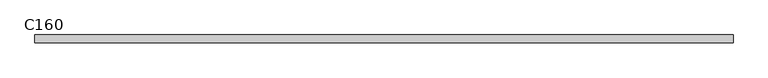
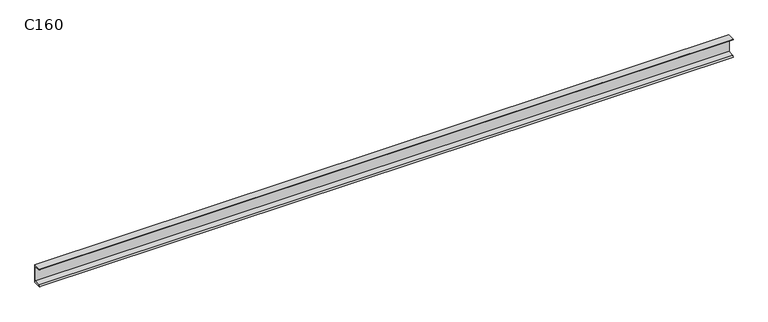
"""IFC4 building model written with IfcOpenShell, lengths in millimetres: beam geometry, RPLN C - Ceowniki normalne : C160."""

import ifcopenshell
import ifcopenshell.guid

model = None  # the IFC model being written
_history = None  # IfcOwnerHistory: only IFC2X3 demands one
_inside = {}  # id of a spatial element -> (the spatial element, [elements in it])
_under = {}  # id of a project, library or spatial element -> (it, [spatial elements below it])
_declared = {}  # id of a project -> (the project, [libraries it declares])
_typed = {}  # id of a type object -> (the type object, [elements of that type])
_made_of = {}  # id of a material, layer set ... -> (it, [elements and type objects made of it])


def new_model(schema):
    """Start an empty IFC model of exactly this schema.

    Asked for "IFC4X3", IfcOpenShell would pick the latest addendum, in which some entities
    have other attributes; the version numbers below select the first issue.
    IFC2X3 requires an IfcOwnerHistory on every rooted entity: one is made here for all.
    """
    global model, _history
    if schema == "IFC4X3":
        model = ifcopenshell.file(schema_version=(4, 3, 0, 0))
    else:
        model = ifcopenshell.file(schema=schema)
    _inside.clear()
    _under.clear()
    _declared.clear()
    _typed.clear()
    _made_of.clear()
    _history = None
    if model.schema == "IFC2X3":
        org = make("IfcOrganization", Name="unknown")
        user = make(
            "IfcPersonAndOrganization",
            ThePerson=make("IfcPerson", FamilyName="unknown"),
            TheOrganization=org,
        )
        app = make(
            "IfcApplication",
            ApplicationDeveloper=org,
            Version="unknown",
            ApplicationFullName="unknown",
            ApplicationIdentifier="unknown",
        )
        _history = make(
            "IfcOwnerHistory",
            OwningUser=user,
            OwningApplication=app,
            ChangeAction="ADDED",
            CreationDate=0,
        )
    return model


def make(cls, **values):
    """One entity of the class cls with the attributes given. An attribute that is None is left unset."""
    return model.create_entity(
        cls, **{name: value for name, value in values.items() if value is not None}
    )


def rooted(cls, **values):
    """An entity with a GlobalId (a new one), such as an element, a storey or a relation."""
    return make(cls, GlobalId=ifcopenshell.guid.new(), OwnerHistory=_history, **values)


def si_unit(unit_type, name, prefix=None):
    """IfcSIUnit, for example si_unit("LENGTHUNIT", "METRE", prefix="MILLI")."""
    return make("IfcSIUnit", UnitType=unit_type, Prefix=prefix, Name=name)


def assignment(units):
    """IfcUnitAssignment: the units of a project."""
    return None if units is None else make("IfcUnitAssignment", Units=units)


def point(xyz):
    """IfcCartesianPoint."""
    return None if xyz is None else make("IfcCartesianPoint", Coordinates=xyz)


def direction(xyz):
    """IfcDirection."""
    return None if xyz is None else make("IfcDirection", DirectionRatios=xyz)


def frame(location, z_axis=None, x_axis=None):
    """IfcAxis2Placement3D, a coordinate frame: its origin and axes. An axis left out is left unset."""
    return make(
        "IfcAxis2Placement3D",
        Location=point(location),
        Axis=direction(z_axis),
        RefDirection=direction(x_axis),
    )


def frame_2d(location, x_axis=None):
    """IfcAxis2Placement2D, a coordinate frame in the plane: its origin and x axis."""
    return make(
        "IfcAxis2Placement2D", Location=point(location), RefDirection=direction(x_axis)
    )


def origin():
    """The frame at (0, 0, 0) with its axes left unset."""
    return frame((0.0, 0.0, 0.0))


def place(relative_to, where):
    """IfcLocalPlacement: puts the frame where relative to a parent placement (None: the world)."""
    return make(
        "IfcLocalPlacement", PlacementRelTo=relative_to, RelativePlacement=where
    )


def context(
    kind, dimensions, precision=None, world=None, true_north=None, identifier=None
):
    """IfcGeometricRepresentationContext, for example the 3D "Model" context."""
    return make(
        "IfcGeometricRepresentationContext",
        ContextIdentifier=identifier,
        ContextType=kind,
        CoordinateSpaceDimension=dimensions,
        Precision=precision,
        WorldCoordinateSystem=world,
        TrueNorth=true_north,
    )


def project(units=None, contexts=None):
    """IfcProject with its units and contexts."""
    return rooted(
        "IfcProject",
        Name="project",
        RepresentationContexts=contexts,
        UnitsInContext=assignment(units),
    )


def spatial(cls, under=None, at=None, **own):
    """A site, building, storey or space (cls), placed at a placement, below another one or the project."""
    s = rooted(cls, ObjectPlacement=at, **own)
    if under is not None:
        _under.setdefault(under.id(), (under, []))[1].append(s)
    return s


def polyline(points):
    """IfcPolyline through the points."""
    return make("IfcPolyline", Points=[point(p) for p in points])


def circle_curve(where, radius):
    """IfcCircle in the frame where."""
    return make("IfcCircle", Position=where, Radius=radius)


def trimmed(basis, trim1, trim2, sense, master):
    """IfcTrimmedCurve: the piece of a basis curve between two trims."""
    return make(
        "IfcTrimmedCurve",
        BasisCurve=basis,
        Trim1=trim1,
        Trim2=trim2,
        SenseAgreement=sense,
        MasterRepresentation=master,
    )


def segment(curve, same_sense, transition):
    """IfcCompositeCurveSegment."""
    return make(
        "IfcCompositeCurveSegment",
        Transition=transition,
        SameSense=same_sense,
        ParentCurve=curve,
    )


def composite_curve(segments, self_intersect=None):
    """IfcCompositeCurve: segments joined end to end."""
    return make("IfcCompositeCurve", Segments=segments, SelfIntersect=self_intersect)


def outline(outer, holes=None, kind="AREA"):
    """IfcArbitraryClosedProfileDef: a profile drawn as a closed curve; with holes, ...WithVoids."""
    if holes is None:
        return make("IfcArbitraryClosedProfileDef", ProfileType=kind, OuterCurve=outer)
    return make(
        "IfcArbitraryProfileDefWithVoids",
        ProfileType=kind,
        OuterCurve=outer,
        InnerCurves=holes,
    )


def extrude(swept, where, along, depth):
    """IfcExtrudedAreaSolid: the profile swept, set in the frame where, extruded along a direction by depth."""
    return make(
        "IfcExtrudedAreaSolid",
        SweptArea=swept,
        Position=where,
        ExtrudedDirection=direction(along),
        Depth=depth,
    )


def shape(context_of_items, identifier, shape_type, items):
    """IfcShapeRepresentation: the items that make up one representation, for example the "Body"."""
    return make(
        "IfcShapeRepresentation",
        ContextOfItems=context_of_items,
        RepresentationIdentifier=identifier,
        RepresentationType=shape_type,
        Items=items,
    )


def source(mapping_origin, context_of_items, identifier, shape_type, items):
    """IfcRepresentationMap: a shape defined once, which mapped items show again and again."""
    return make(
        "IfcRepresentationMap",
        MappingOrigin=mapping_origin,
        MappedRepresentation=shape(context_of_items, identifier, shape_type, items),
    )


def transform(
    local_origin,
    x_axis=None,
    y_axis=None,
    z_axis=None,
    scale=None,
    scale2=None,
    scale3=None,
    uniform=True,
):
    """IfcCartesianTransformationOperator3D, or its non-uniform kind. x_axis, y_axis, z_axis: its Axis1, 2, 3."""
    if uniform:
        return make(
            "IfcCartesianTransformationOperator3D",
            Axis1=direction(x_axis),
            Axis2=direction(y_axis),
            LocalOrigin=point(local_origin),
            Scale=scale,
            Axis3=direction(z_axis),
        )
    return make(
        "IfcCartesianTransformationOperator3DnonUniform",
        Axis1=direction(x_axis),
        Axis2=direction(y_axis),
        LocalOrigin=point(local_origin),
        Scale=scale,
        Axis3=direction(z_axis),
        Scale2=scale2,
        Scale3=scale3,
    )


def mapped(mapping_source, mapping_target):
    """IfcMappedItem: shows the shape of a source again, moved by a transform."""
    return make(
        "IfcMappedItem", MappingSource=mapping_source, MappingTarget=mapping_target
    )


def made_of(thing, what):
    """Note that an element or type object is made of a material, layer set ...; save() writes the relation."""
    if what is not None:
        _made_of.setdefault(what.id(), (what, []))[1].append(thing)
    return thing


def element(
    cls,
    number,
    at=None,
    inside=None,
    cuts=None,
    type_object=None,
    material=None,
    context=None,
    identifier="Body",
    shape_type=None,
    held_by="IfcProductDefinitionShape",
    body=None,
    shapes=None,
    **own,
):
    """One element of the class cls, such as IfcWall. Its Tag is "e" and its number.

    at: its placement. inside: the storey or other place that contains it. cuts: it is an
    opening in that element (IfcRelVoidsElement). A single representation is given by context,
    identifier, shape_type and body (its items); several are given by shapes. held_by: the class
    of the entity that holds the representations. save() writes the other relations.
    """
    e = rooted(cls, Tag="e%d" % number, ObjectPlacement=at, **own)
    if body is not None:
        shapes = [shape(context, identifier, shape_type, body)]
    if shapes is not None:
        e.Representation = make(held_by, Representations=shapes)
    if inside is not None:
        _inside.setdefault(inside.id(), (inside, []))[1].append(e)
    if cuts is not None:
        rooted(
            "IfcRelVoidsElement", RelatingBuildingElement=cuts, RelatedOpeningElement=e
        )
    if type_object is not None:
        _typed.setdefault(type_object.id(), (type_object, []))[1].append(e)
    return made_of(e, material)


def aggregate(whole, parts):
    """IfcRelAggregates: a whole, such as a stair, and the parts it consists of."""
    return rooted("IfcRelAggregates", RelatingObject=whole, RelatedObjects=parts)


def save(model, path):
    """Write the relations noted so far, then the file.

    IfcRelAggregates (storeys below a building ...), IfcRelContainedInSpatialStructure (elements
    in a storey), IfcRelDefinesByType, IfcRelAssociatesMaterial and IfcRelDeclares: one each for
    every whole, place, type object, material and project.
    """
    for whole, parts in _under.values():
        aggregate(whole, parts)
    for where, things in _inside.values():
        rooted(
            "IfcRelContainedInSpatialStructure",
            RelatedElements=things,
            RelatingStructure=where,
        )
    for kind, things in _typed.values():
        rooted("IfcRelDefinesByType", RelatedObjects=things, RelatingType=kind)
    for what, things in _made_of.values():
        rooted("IfcRelAssociatesMaterial", RelatedObjects=things, RelatingMaterial=what)
    for by, libraries in _declared.values():
        rooted("IfcRelDeclares", RelatingContext=by, RelatedDefinitions=libraries)
    model.write(path)


def c160_3b37e5dd(model_context):
    return source(origin(), model_context, "Body", "SweptSolid", [
        extrude(outline(composite_curve([segment(polyline([(18.4, 80.0), (18.4, -80.0), (-46.6, -80.0)]), True, "CONTINUOUS"), segment(trimmed(circle_curve(frame_2d((-36.1, -80.0)), 10.5), [point((-46.6, -80.0))], [point((-36.1, -69.5))], False, "CARTESIAN"), True, "CONTINUOUS"), segment(polyline([(-36.1, -69.5), (10.9, -62.0559313), (10.9, 62.0559313), (-36.1, 69.5)]), True, "CONTINUOUS"), segment(trimmed(circle_curve(frame_2d((-36.1, 80.0)), 10.5), [point((-36.1, 69.5))], [point((-46.6, 80.0))], False, "CARTESIAN"), True, "CONTINUOUS"), segment(polyline([(-46.6, 80.0), (18.4, 80.0)]), True, "CONTINUOUS")], self_intersect=False)), frame((-2992.6297744, 0.0, 0.0), z_axis=(1.0, 0.0, 0.0), x_axis=(0.0, 1.0, 0.0)), (0.0, 0.0, 1.0), 5908.9069849),
    ])


if __name__ == "__main__":
    model = new_model("IFC4")
    model_context = context("Model", 3, world=origin())
    ifc_project = project(units=[si_unit("LENGTHUNIT", "METRE", prefix="MILLI")], contexts=[model_context])
    site = spatial("IfcSite", under=ifc_project)
    building = spatial("IfcBuilding", under=site)
    placement = place(None, origin())
    c160_shape = c160_3b37e5dd(model_context)
    element("IfcBeam", 1, ObjectType="RPLN C - Ceowniki normalne : C160", at=placement, inside=building, context=model_context, shape_type="MappedRepresentation", body=[
        mapped(c160_shape, transform((0.0, 0.0, 0.0), x_axis=(1.0, 0.0, 0.0), y_axis=(0.0, 1.0, 0.0), z_axis=(0.0, 0.0, 1.0))),
    ])
    save(model, "model.ifc")
